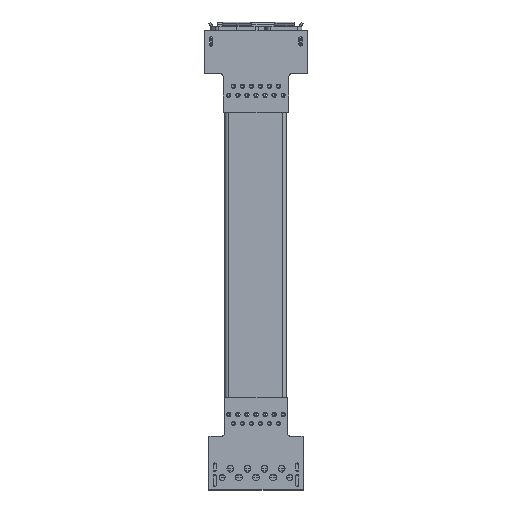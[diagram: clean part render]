
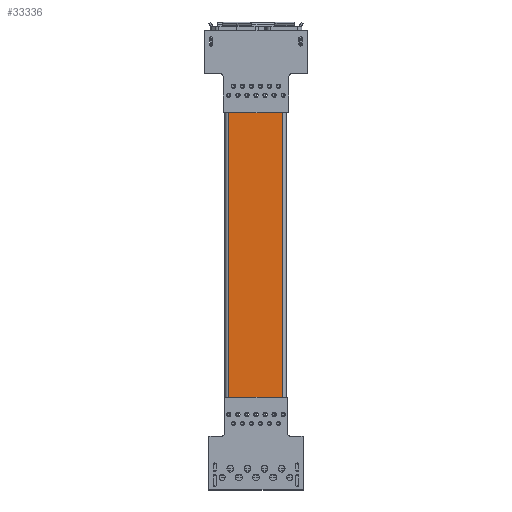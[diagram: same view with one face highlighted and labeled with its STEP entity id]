
A CAD part, top view. The second image highlights one B-rep face of the part: STEP entity #33336.
In plain terms, the highlighted planar face has unit normal (0, 0, 1) as drawn and (0, -1, 0) by its records, which use the part's own axes.
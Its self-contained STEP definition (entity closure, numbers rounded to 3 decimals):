
#32883 = EDGE_CURVE('',#32884,#32886,#32888,.T.);
#32884 = VERTEX_POINT('',#32885);
#32885 = CARTESIAN_POINT('',(-7.621,-1.201,43.));
#32886 = VERTEX_POINT('',#32887);
#32887 = CARTESIAN_POINT('',(-0.001,-1.201,43.));
#32888 = LINE('',#32889,#32890);
#32889 = CARTESIAN_POINT('',(-0.001,-1.201,43.));
#32890 = VECTOR('',#32891,1.);
#32891 = DIRECTION('',(1.,0.,0.));
#33069 = VERTEX_POINT('',#33070);
#33070 = CARTESIAN_POINT('',(-0.001,-1.201,
    0.));
#33079 = EDGE_CURVE('',#33080,#33069,#33082,.T.);
#33080 = VERTEX_POINT('',#33081);
#33081 = CARTESIAN_POINT('',(-7.621,-1.201,0.));
#33082 = LINE('',#33083,#33084);
#33083 = CARTESIAN_POINT('',(-0.001,-1.201,
    0.));
#33084 = VECTOR('',#33085,1.);
#33085 = DIRECTION('',(1.,0.,0.));
#33319 = EDGE_CURVE('',#33069,#32886,#33320,.T.);
#33320 = LINE('',#33321,#33322);
#33321 = CARTESIAN_POINT('',(-0.001,-1.201,
    0.));
#33322 = VECTOR('',#33323,1.);
#33323 = DIRECTION('',(0.,0.,1.));
#33336 = ADVANCED_FACE('',(#33337),#33348,.T.);
#33337 = FACE_BOUND('',#33338,.T.);
#33338 = EDGE_LOOP('',(#33339,#33340,#33346,#33347));
#33339 = ORIENTED_EDGE('',*,*,#32883,.F.);
#33340 = ORIENTED_EDGE('',*,*,#33341,.F.);
#33341 = EDGE_CURVE('',#33080,#32884,#33342,.T.);
#33342 = LINE('',#33343,#33344);
#33343 = CARTESIAN_POINT('',(-7.621,-1.201,0.));
#33344 = VECTOR('',#33345,1.);
#33345 = DIRECTION('',(0.,0.,1.));
#33346 = ORIENTED_EDGE('',*,*,#33079,.T.);
#33347 = ORIENTED_EDGE('',*,*,#33319,.T.);
#33348 = PLANE('',#33349);
#33349 = AXIS2_PLACEMENT_3D('',#33350,#33351,#33352);
#33350 = CARTESIAN_POINT('',(-0.001,-1.201,
    0.));
#33351 = DIRECTION('',(0.,-1.,0.));
#33352 = DIRECTION('',(0.,0.,-1.));
